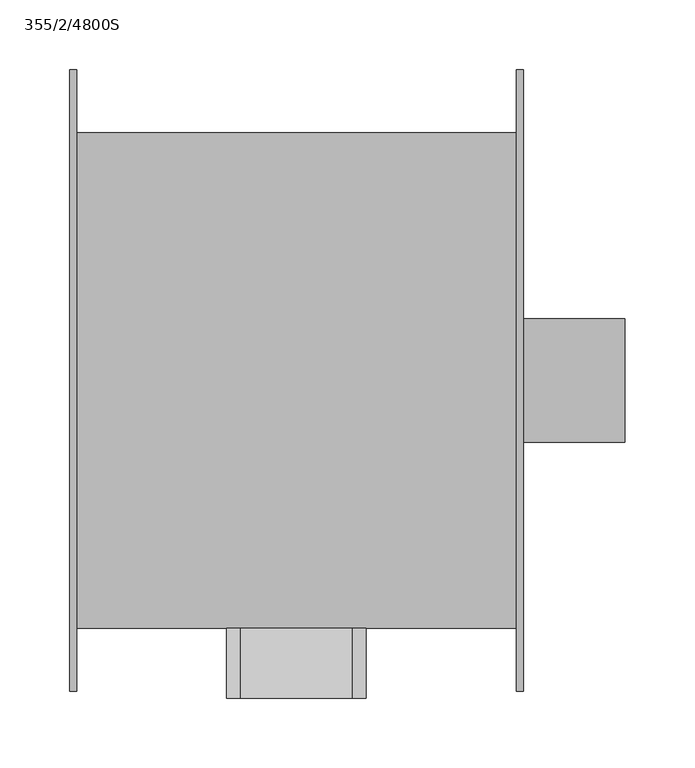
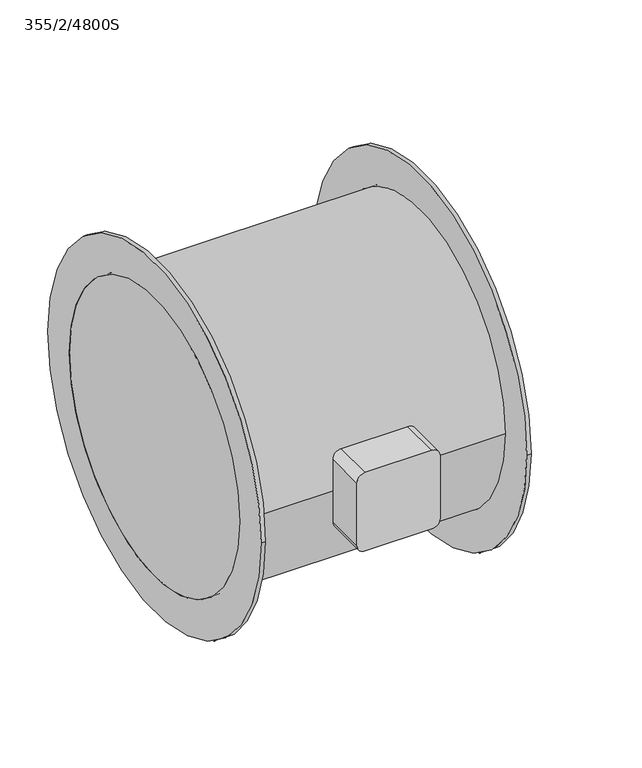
"""IFC4 building model written with IfcOpenShell, lengths in millimetres: unitary equipment geometry, VE-Wentylator-ParaForma-Harmann-AXER-Nawiewny : 355/2/4800S."""

import ifcopenshell
import ifcopenshell.guid

model = None  # the IFC model being written
_history = None  # IfcOwnerHistory: only IFC2X3 demands one
_inside = {}  # id of a spatial element -> (the spatial element, [elements in it])
_under = {}  # id of a project, library or spatial element -> (it, [spatial elements below it])
_declared = {}  # id of a project -> (the project, [libraries it declares])
_typed = {}  # id of a type object -> (the type object, [elements of that type])
_made_of = {}  # id of a material, layer set ... -> (it, [elements and type objects made of it])


def new_model(schema):
    """Start an empty IFC model of exactly this schema.

    Asked for "IFC4X3", IfcOpenShell would pick the latest addendum, in which some entities
    have other attributes; the version numbers below select the first issue.
    IFC2X3 requires an IfcOwnerHistory on every rooted entity: one is made here for all.
    """
    global model, _history
    if schema == "IFC4X3":
        model = ifcopenshell.file(schema_version=(4, 3, 0, 0))
    else:
        model = ifcopenshell.file(schema=schema)
    _inside.clear()
    _under.clear()
    _declared.clear()
    _typed.clear()
    _made_of.clear()
    _history = None
    if model.schema == "IFC2X3":
        org = make("IfcOrganization", Name="unknown")
        user = make(
            "IfcPersonAndOrganization",
            ThePerson=make("IfcPerson", FamilyName="unknown"),
            TheOrganization=org,
        )
        app = make(
            "IfcApplication",
            ApplicationDeveloper=org,
            Version="unknown",
            ApplicationFullName="unknown",
            ApplicationIdentifier="unknown",
        )
        _history = make(
            "IfcOwnerHistory",
            OwningUser=user,
            OwningApplication=app,
            ChangeAction="ADDED",
            CreationDate=0,
        )
    return model


def make(cls, **values):
    """One entity of the class cls with the attributes given. An attribute that is None is left unset."""
    return model.create_entity(
        cls, **{name: value for name, value in values.items() if value is not None}
    )


def rooted(cls, **values):
    """An entity with a GlobalId (a new one), such as an element, a storey or a relation."""
    return make(cls, GlobalId=ifcopenshell.guid.new(), OwnerHistory=_history, **values)


def si_unit(unit_type, name, prefix=None):
    """IfcSIUnit, for example si_unit("LENGTHUNIT", "METRE", prefix="MILLI")."""
    return make("IfcSIUnit", UnitType=unit_type, Prefix=prefix, Name=name)


def assignment(units):
    """IfcUnitAssignment: the units of a project."""
    return None if units is None else make("IfcUnitAssignment", Units=units)


def point(xyz):
    """IfcCartesianPoint."""
    return None if xyz is None else make("IfcCartesianPoint", Coordinates=xyz)


def direction(xyz):
    """IfcDirection."""
    return None if xyz is None else make("IfcDirection", DirectionRatios=xyz)


def frame(location, z_axis=None, x_axis=None):
    """IfcAxis2Placement3D, a coordinate frame: its origin and axes. An axis left out is left unset."""
    return make(
        "IfcAxis2Placement3D",
        Location=point(location),
        Axis=direction(z_axis),
        RefDirection=direction(x_axis),
    )


def frame_2d(location, x_axis=None):
    """IfcAxis2Placement2D, a coordinate frame in the plane: its origin and x axis."""
    return make(
        "IfcAxis2Placement2D", Location=point(location), RefDirection=direction(x_axis)
    )


def origin():
    """The frame at (0, 0, 0) with its axes left unset."""
    return frame((0.0, 0.0, 0.0))


def origin_2d():
    """The frame at (0, 0) in the plane with its x axis left unset."""
    return frame_2d((0.0, 0.0))


def place(relative_to, where):
    """IfcLocalPlacement: puts the frame where relative to a parent placement (None: the world)."""
    return make(
        "IfcLocalPlacement", PlacementRelTo=relative_to, RelativePlacement=where
    )


def context(
    kind, dimensions, precision=None, world=None, true_north=None, identifier=None
):
    """IfcGeometricRepresentationContext, for example the 3D "Model" context."""
    return make(
        "IfcGeometricRepresentationContext",
        ContextIdentifier=identifier,
        ContextType=kind,
        CoordinateSpaceDimension=dimensions,
        Precision=precision,
        WorldCoordinateSystem=world,
        TrueNorth=true_north,
    )


def project(units=None, contexts=None):
    """IfcProject with its units and contexts."""
    return rooted(
        "IfcProject",
        Name="project",
        RepresentationContexts=contexts,
        UnitsInContext=assignment(units),
    )


def spatial(cls, under=None, at=None, **own):
    """A site, building, storey or space (cls), placed at a placement, below another one or the project."""
    s = rooted(cls, ObjectPlacement=at, **own)
    if under is not None:
        _under.setdefault(under.id(), (under, []))[1].append(s)
    return s


def polyline(points):
    """IfcPolyline through the points."""
    return make("IfcPolyline", Points=[point(p) for p in points])


def circle_curve(where, radius):
    """IfcCircle in the frame where."""
    return make("IfcCircle", Position=where, Radius=radius)


def trimmed(basis, trim1, trim2, sense, master):
    """IfcTrimmedCurve: the piece of a basis curve between two trims."""
    return make(
        "IfcTrimmedCurve",
        BasisCurve=basis,
        Trim1=trim1,
        Trim2=trim2,
        SenseAgreement=sense,
        MasterRepresentation=master,
    )


def segment(curve, same_sense, transition):
    """IfcCompositeCurveSegment."""
    return make(
        "IfcCompositeCurveSegment",
        Transition=transition,
        SameSense=same_sense,
        ParentCurve=curve,
    )


def composite_curve(segments, self_intersect=None):
    """IfcCompositeCurve: segments joined end to end."""
    return make("IfcCompositeCurve", Segments=segments, SelfIntersect=self_intersect)


def outline(outer, holes=None, kind="AREA"):
    """IfcArbitraryClosedProfileDef: a profile drawn as a closed curve; with holes, ...WithVoids."""
    if holes is None:
        return make("IfcArbitraryClosedProfileDef", ProfileType=kind, OuterCurve=outer)
    return make(
        "IfcArbitraryProfileDefWithVoids",
        ProfileType=kind,
        OuterCurve=outer,
        InnerCurves=holes,
    )


def extrude(swept, where, along, depth):
    """IfcExtrudedAreaSolid: the profile swept, set in the frame where, extruded along a direction by depth."""
    return make(
        "IfcExtrudedAreaSolid",
        SweptArea=swept,
        Position=where,
        ExtrudedDirection=direction(along),
        Depth=depth,
    )


def shape(context_of_items, identifier, shape_type, items):
    """IfcShapeRepresentation: the items that make up one representation, for example the "Body"."""
    return make(
        "IfcShapeRepresentation",
        ContextOfItems=context_of_items,
        RepresentationIdentifier=identifier,
        RepresentationType=shape_type,
        Items=items,
    )


def source(mapping_origin, context_of_items, identifier, shape_type, items):
    """IfcRepresentationMap: a shape defined once, which mapped items show again and again."""
    return make(
        "IfcRepresentationMap",
        MappingOrigin=mapping_origin,
        MappedRepresentation=shape(context_of_items, identifier, shape_type, items),
    )


def transform(
    local_origin,
    x_axis=None,
    y_axis=None,
    z_axis=None,
    scale=None,
    scale2=None,
    scale3=None,
    uniform=True,
):
    """IfcCartesianTransformationOperator3D, or its non-uniform kind. x_axis, y_axis, z_axis: its Axis1, 2, 3."""
    if uniform:
        return make(
            "IfcCartesianTransformationOperator3D",
            Axis1=direction(x_axis),
            Axis2=direction(y_axis),
            LocalOrigin=point(local_origin),
            Scale=scale,
            Axis3=direction(z_axis),
        )
    return make(
        "IfcCartesianTransformationOperator3DnonUniform",
        Axis1=direction(x_axis),
        Axis2=direction(y_axis),
        LocalOrigin=point(local_origin),
        Scale=scale,
        Axis3=direction(z_axis),
        Scale2=scale2,
        Scale3=scale3,
    )


def mapped(mapping_source, mapping_target):
    """IfcMappedItem: shows the shape of a source again, moved by a transform."""
    return make(
        "IfcMappedItem", MappingSource=mapping_source, MappingTarget=mapping_target
    )


def made_of(thing, what):
    """Note that an element or type object is made of a material, layer set ...; save() writes the relation."""
    if what is not None:
        _made_of.setdefault(what.id(), (what, []))[1].append(thing)
    return thing


def element(
    cls,
    number,
    at=None,
    inside=None,
    cuts=None,
    type_object=None,
    material=None,
    context=None,
    identifier="Body",
    shape_type=None,
    held_by="IfcProductDefinitionShape",
    body=None,
    shapes=None,
    **own,
):
    """One element of the class cls, such as IfcWall. Its Tag is "e" and its number.

    at: its placement. inside: the storey or other place that contains it. cuts: it is an
    opening in that element (IfcRelVoidsElement). A single representation is given by context,
    identifier, shape_type and body (its items); several are given by shapes. held_by: the class
    of the entity that holds the representations. save() writes the other relations.
    """
    e = rooted(cls, Tag="e%d" % number, ObjectPlacement=at, **own)
    if body is not None:
        shapes = [shape(context, identifier, shape_type, body)]
    if shapes is not None:
        e.Representation = make(held_by, Representations=shapes)
    if inside is not None:
        _inside.setdefault(inside.id(), (inside, []))[1].append(e)
    if cuts is not None:
        rooted(
            "IfcRelVoidsElement", RelatingBuildingElement=cuts, RelatedOpeningElement=e
        )
    if type_object is not None:
        _typed.setdefault(type_object.id(), (type_object, []))[1].append(e)
    return made_of(e, material)


def aggregate(whole, parts):
    """IfcRelAggregates: a whole, such as a stair, and the parts it consists of."""
    return rooted("IfcRelAggregates", RelatingObject=whole, RelatedObjects=parts)


def save(model, path):
    """Write the relations noted so far, then the file.

    IfcRelAggregates (storeys below a building ...), IfcRelContainedInSpatialStructure (elements
    in a storey), IfcRelDefinesByType, IfcRelAssociatesMaterial and IfcRelDeclares: one each for
    every whole, place, type object, material and project.
    """
    for whole, parts in _under.values():
        aggregate(whole, parts)
    for where, things in _inside.values():
        rooted(
            "IfcRelContainedInSpatialStructure",
            RelatedElements=things,
            RelatingStructure=where,
        )
    for kind, things in _typed.values():
        rooted("IfcRelDefinesByType", RelatedObjects=things, RelatingType=kind)
    for what, things in _made_of.values():
        rooted("IfcRelAssociatesMaterial", RelatedObjects=things, RelatingMaterial=what)
    for by, libraries in _declared.values():
        rooted("IfcRelDeclares", RelatingContext=by, RelatedDefinitions=libraries)
    model.write(path)


def unitary_equipment_355_2_4800s_27590a7e(model_context):
    return source(origin(), model_context, "Body", "SweptSolid", [
        extrude(outline(composite_curve([segment(trimmed(circle_curve(origin_2d(), 44.4), [point((-44.4, 0.0))], [point((44.4, 0.0))], False, "CARTESIAN"), True, "CONTINUOUS"), segment(trimmed(circle_curve(origin_2d(), 44.4), [point((44.4, 0.0))], [point((-44.4, 0.0))], False, "CARTESIAN"), True, "CONTINUOUS")], self_intersect=False)), frame((162.5, 0.0, 0.0), z_axis=(1.0, 0.0, 0.0), x_axis=(0.0, 1.0, 0.0)), (0.0, 0.0, 1.0), 73.0),
        extrude(outline(composite_curve([segment(trimmed(circle_curve(frame_2d((-40.0, 40.0)), 10.0), [point((-50.0, 40.0))], [point((-40.0, 50.0))], False, "CARTESIAN"), True, "CONTINUOUS"), segment(polyline([(-40.0, 50.0), (40.0, 50.0)]), True, "CONTINUOUS"), segment(trimmed(circle_curve(frame_2d((40.0, 40.0)), 10.0), [point((40.0, 50.0))], [point((50.0, 40.0))], False, "CARTESIAN"), True, "CONTINUOUS"), segment(polyline([(50.0, 40.0), (50.0, -40.0)]), True, "CONTINUOUS"), segment(trimmed(circle_curve(frame_2d((40.0, -40.0)), 10.0), [point((50.0, -40.0))], [point((40.0, -50.0))], False, "CARTESIAN"), True, "CONTINUOUS"), segment(polyline([(40.0, -50.0), (-40.0, -50.0)]), True, "CONTINUOUS"), segment(trimmed(circle_curve(frame_2d((-40.0, -40.0)), 10.0), [point((-40.0, -50.0))], [point((-50.0, -40.0))], False, "CARTESIAN"), True, "CONTINUOUS"), segment(polyline([(-50.0, -40.0), (-50.0, 40.0)]), True, "CONTINUOUS")], self_intersect=False)), frame((0.0, -227.5, 0.0), z_axis=(0.0, 1.0, 0.0), x_axis=(0.0, 0.0, 1.0)), (0.0, 0.0, 1.0), 50.0),
        extrude(outline(composite_curve([segment(trimmed(circle_curve(origin_2d(), 222.5), [point((-222.5, 0.0))], [point((222.5, 0.0))], False, "CARTESIAN"), True, "CONTINUOUS"), segment(trimmed(circle_curve(origin_2d(), 222.5), [point((222.5, 0.0))], [point((-222.5, 0.0))], False, "CARTESIAN"), True, "CONTINUOUS")], self_intersect=False), holes=[composite_curve([segment(trimmed(circle_curve(origin_2d(), 177.5), [point((-177.5, 0.0))], [point((177.5, 0.0))], True, "CARTESIAN"), True, "CONTINUOUS"), segment(trimmed(circle_curve(origin_2d(), 177.5), [point((177.5, 0.0))], [point((-177.5, 0.0))], True, "CARTESIAN"), True, "CONTINUOUS")], self_intersect=False)]), frame((157.5, 0.0, 0.0), z_axis=(1.0, 0.0, 0.0), x_axis=(0.0, 1.0, 0.0)), (0.0, 0.0, 1.0), 5.0),
        extrude(outline(composite_curve([segment(trimmed(circle_curve(origin_2d(), 222.5), [point((-222.5, 0.0))], [point((222.5, 0.0))], False, "CARTESIAN"), True, "CONTINUOUS"), segment(trimmed(circle_curve(origin_2d(), 222.5), [point((222.5, 0.0))], [point((-222.5, 0.0))], False, "CARTESIAN"), True, "CONTINUOUS")], self_intersect=False), holes=[composite_curve([segment(trimmed(circle_curve(origin_2d(), 177.5), [point((-177.5, 0.0))], [point((177.5, 0.0))], True, "CARTESIAN"), True, "CONTINUOUS"), segment(trimmed(circle_curve(origin_2d(), 177.5), [point((177.5, 0.0))], [point((-177.5, 0.0))], True, "CARTESIAN"), True, "CONTINUOUS")], self_intersect=False)]), frame((-162.5, 0.0, 0.0), z_axis=(1.0, 0.0, 0.0), x_axis=(0.0, 1.0, 0.0)), (0.0, 0.0, 1.0), 5.0),
        extrude(outline(composite_curve([segment(trimmed(circle_curve(origin_2d(), 177.5), [point((-177.5, 0.0))], [point((177.5, 0.0))], False, "CARTESIAN"), True, "CONTINUOUS"), segment(trimmed(circle_curve(origin_2d(), 177.5), [point((177.5, 0.0))], [point((-177.5, 0.0))], False, "CARTESIAN"), True, "CONTINUOUS")], self_intersect=False)), frame((-162.5, 0.0, 0.0), z_axis=(1.0, 0.0, 0.0), x_axis=(0.0, 1.0, 0.0)), (0.0, 0.0, 1.0), 325.0),
    ])


if __name__ == "__main__":
    model = new_model("IFC4")
    model_context = context("Model", 3, world=origin())
    ifc_project = project(units=[si_unit("LENGTHUNIT", "METRE", prefix="MILLI")], contexts=[model_context])
    site = spatial("IfcSite", under=ifc_project)
    building = spatial("IfcBuilding", under=site)
    placement = place(None, origin())
    unitary_equipment_355_2_4800s_shape = unitary_equipment_355_2_4800s_27590a7e(model_context)
    element("IfcUnitaryEquipment", 1, ObjectType="VE-Wentylator-ParaForma-Harmann-AXER-Nawiewny : 355/2/4800S", at=placement, inside=building, context=model_context, shape_type="MappedRepresentation", body=[
        mapped(unitary_equipment_355_2_4800s_shape, transform((0.0, 0.0, 0.0), x_axis=(1.0, 0.0, 0.0), y_axis=(0.0, 1.0, 0.0), z_axis=(0.0, 0.0, 1.0))),
    ])
    save(model, "model.ifc")
